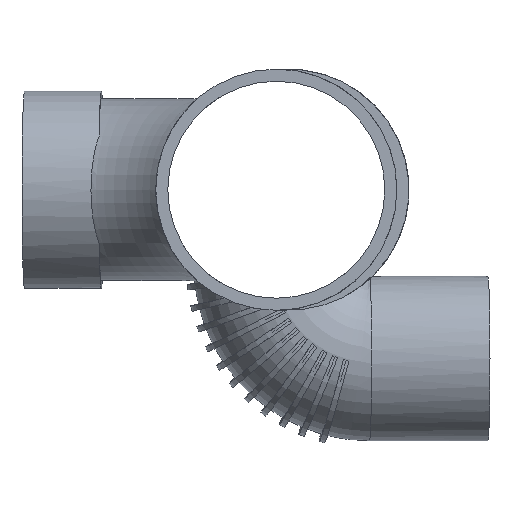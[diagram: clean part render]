
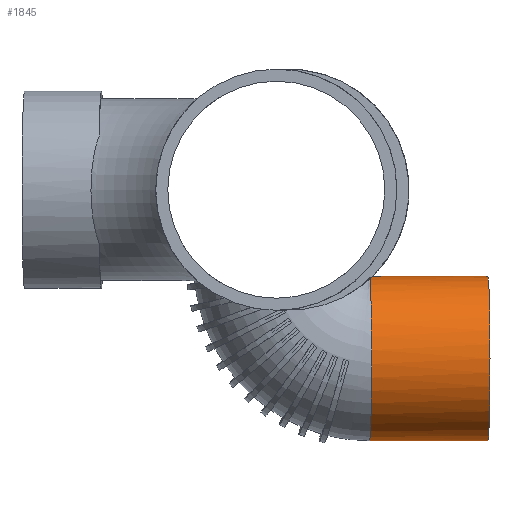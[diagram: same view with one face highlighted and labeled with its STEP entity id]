
A CAD part, front view. The second image highlights one B-rep face of the part: STEP entity #1845.
In plain terms, the highlighted cylindrical face has radius 37.5 mm (diameter 75 mm), a full revolution.
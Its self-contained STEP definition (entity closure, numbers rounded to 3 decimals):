
#288=FACE_OUTER_BOUND($,#598,.T.);
#366=CIRCLE($,#1981,37.5);
#408=CIRCLE($,#2080,37.5);
#448=FACE_BOUND($,#599,.T.);
#598=EDGE_LOOP($,(#1547));
#599=EDGE_LOOP($,(#1548));
#785=VERTEX_POINT($,#3544);
#820=VERTEX_POINT($,#3710);
#982=EDGE_CURVE($,#785,#785,#366,.T.);
#1056=EDGE_CURVE($,#820,#820,#408,.T.);
#1547=ORIENTED_EDGE($,*,*,#982,.T.);
#1548=ORIENTED_EDGE($,*,*,#1056,.T.);
#1610=CYLINDRICAL_SURFACE($,#2079,37.5);
#1845=ADVANCED_FACE($,(#288,#448),#1610,.T.);
#1981=AXIS2_PLACEMENT_3D($,#3545,#2364,#2365);
#2079=AXIS2_PLACEMENT_3D($,#3709,#2592,#2593);
#2080=AXIS2_PLACEMENT_3D($,#3711,#2594,#2595);
#2364=DIRECTION('center_axis',(1.,0.026,0.));
#2365=DIRECTION('ref_axis',(0.026,-1.,0.));
#2592=DIRECTION('center_axis',(-1.,-0.026,0.));
#2593=DIRECTION('ref_axis',(0.026,-1.,0.));
#2594=DIRECTION('center_axis',(-1.,-0.026,0.));
#2595=DIRECTION('ref_axis',(0.026,-1.,0.));
#3544=CARTESIAN_POINT('',(41.504,166.6,-77.));
#3545=CARTESIAN_POINT('Origin',(42.485,129.113,-77.));
#3709=CARTESIAN_POINT('Origin',(96.485,130.527,-77.));
#3710=CARTESIAN_POINT('',(95.504,168.014,-77.));
#3711=CARTESIAN_POINT('Origin',(96.485,130.527,-77.));
